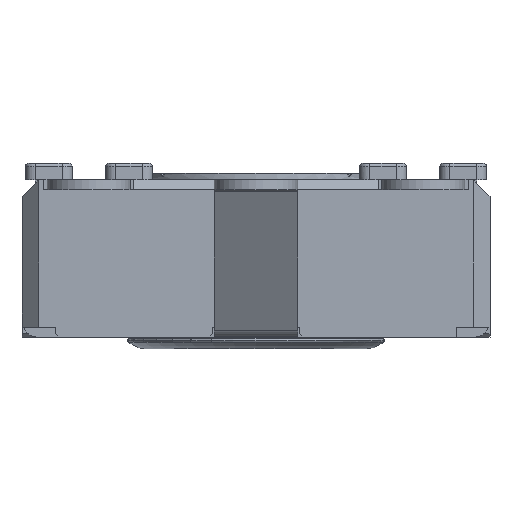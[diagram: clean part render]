
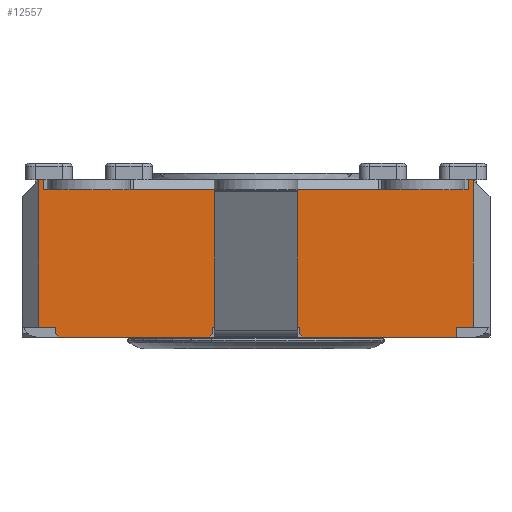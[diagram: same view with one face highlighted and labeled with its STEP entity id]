
A CAD part, front view. The second image highlights one B-rep face of the part: STEP entity #12557.
In plain terms, the highlighted planar face has unit normal (0, -1, 0).
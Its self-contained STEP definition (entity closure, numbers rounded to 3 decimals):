
#389=LINE('',#17617,#1822);
#459=LINE('',#17807,#1892);
#460=LINE('',#17809,#1893);
#461=LINE('',#17812,#1894);
#466=LINE('',#17822,#1899);
#528=LINE('',#17953,#1961);
#535=LINE('',#17970,#1968);
#664=LINE('',#18374,#2097);
#679=LINE('',#18403,#2112);
#747=LINE('',#18555,#2180);
#755=LINE('',#18568,#2188);
#871=LINE('',#18939,#2304);
#1078=LINE('',#19463,#2511);
#1083=LINE('',#19472,#2516);
#1086=LINE('',#19477,#2519);
#1173=LINE('',#19754,#2606);
#1181=LINE('',#19772,#2614);
#1187=LINE('',#19780,#2620);
#1188=LINE('',#19783,#2621);
#1189=LINE('',#19785,#2622);
#1190=LINE('',#19787,#2623);
#1191=LINE('',#19788,#2624);
#1192=LINE('',#19789,#2625);
#1193=LINE('',#19790,#2626);
#1194=LINE('',#19791,#2627);
#1195=LINE('',#19792,#2628);
#1196=LINE('',#19793,#2629);
#1822=VECTOR('',#14098,10.);
#1892=VECTOR('',#14254,10.);
#1893=VECTOR('',#14257,10.);
#1894=VECTOR('',#14260,10.);
#1899=VECTOR('',#14265,10.);
#1961=VECTOR('',#14377,10.);
#1968=VECTOR('',#14390,10.);
#2097=VECTOR('',#14815,10.);
#2112=VECTOR('',#14844,10.);
#2180=VECTOR('',#14994,10.);
#2188=VECTOR('',#15004,10.);
#2304=VECTOR('',#15268,10.);
#2511=VECTOR('',#15617,10.);
#2516=VECTOR('',#15622,10.);
#2519=VECTOR('',#15627,10.);
#2606=VECTOR('',#15852,10.);
#2614=VECTOR('',#15864,10.);
#2620=VECTOR('',#15874,10.);
#2621=VECTOR('',#15877,10.);
#2622=VECTOR('',#15878,10.);
#2623=VECTOR('',#15879,10.);
#2624=VECTOR('',#15880,10.);
#2625=VECTOR('',#15881,10.);
#2626=VECTOR('',#15882,10.);
#2627=VECTOR('',#15883,10.);
#2628=VECTOR('',#15884,10.);
#2629=VECTOR('',#15885,10.);
#3518=FACE_OUTER_BOUND('',#4197,.T.);
#4197=EDGE_LOOP('',(#9796,#9797,#9798,#9799,#9800,#9801,#9802,#9803,#9804,
#9805,#9806,#9807,#9808,#9809,#9810,#9811,#9812,#9813,#9814,#9815,#9816,
#9817,#9818,#9819,#9820,#9821,#9822));
#4883=VERTEX_POINT('',#17494);
#4934=VERTEX_POINT('',#17616);
#4962=VERTEX_POINT('',#17692);
#4985=VERTEX_POINT('',#17742);
#5007=VERTEX_POINT('',#17793);
#5009=VERTEX_POINT('',#17799);
#5012=VERTEX_POINT('',#17811);
#5016=VERTEX_POINT('',#17819);
#5017=VERTEX_POINT('',#17821);
#5061=VERTEX_POINT('',#17951);
#5068=VERTEX_POINT('',#17969);
#5194=VERTEX_POINT('',#18371);
#5195=VERTEX_POINT('',#18373);
#5201=VERTEX_POINT('',#18400);
#5202=VERTEX_POINT('',#18402);
#5245=VERTEX_POINT('',#18554);
#5249=VERTEX_POINT('',#18566);
#5369=VERTEX_POINT('',#18935);
#5520=VERTEX_POINT('',#19462);
#5524=VERTEX_POINT('',#19470);
#5577=VERTEX_POINT('',#19752);
#5578=VERTEX_POINT('',#19753);
#5585=VERTEX_POINT('',#19770);
#5586=VERTEX_POINT('',#19771);
#5587=VERTEX_POINT('',#19782);
#5588=VERTEX_POINT('',#19784);
#5589=VERTEX_POINT('',#19786);
#6139=EDGE_CURVE('',#4934,#4883,#389,.T.);
#6233=EDGE_CURVE('',#5007,#4962,#459,.T.);
#6234=EDGE_CURVE('',#5009,#4985,#460,.T.);
#6235=EDGE_CURVE('',#5012,#4934,#461,.T.);
#6240=EDGE_CURVE('',#5017,#5016,#466,.T.);
#6307=EDGE_CURVE('',#4962,#5061,#528,.T.);
#6315=EDGE_CURVE('',#5068,#5007,#535,.T.);
#6518=EDGE_CURVE('',#5195,#5194,#664,.T.);
#6533=EDGE_CURVE('',#5202,#5201,#679,.T.);
#6610=EDGE_CURVE('',#5245,#5009,#747,.T.);
#6618=EDGE_CURVE('',#4985,#5249,#755,.T.);
#6772=EDGE_CURVE('',#5202,#5369,#871,.T.);
#7000=EDGE_CURVE('',#5520,#5369,#1078,.T.);
#7005=EDGE_CURVE('',#4883,#5524,#1083,.T.);
#7008=EDGE_CURVE('',#5017,#5194,#1086,.T.);
#7114=EDGE_CURVE('',#5577,#5578,#1173,.T.);
#7122=EDGE_CURVE('',#5585,#5586,#1181,.T.);
#7128=EDGE_CURVE('',#5012,#5577,#1187,.T.);
#7129=EDGE_CURVE('',#5524,#5587,#1188,.T.);
#7130=EDGE_CURVE('',#5588,#5587,#1189,.T.);
#7131=EDGE_CURVE('',#5588,#5589,#1190,.T.);
#7132=EDGE_CURVE('',#5589,#5520,#1191,.T.);
#7133=EDGE_CURVE('',#5201,#5245,#1192,.T.);
#7134=EDGE_CURVE('',#5068,#5249,#1193,.T.);
#7135=EDGE_CURVE('',#5061,#5195,#1194,.T.);
#7136=EDGE_CURVE('',#5016,#5586,#1195,.T.);
#7137=EDGE_CURVE('',#5585,#5578,#1196,.T.);
#9796=ORIENTED_EDGE('',*,*,#7114,.F.);
#9797=ORIENTED_EDGE('',*,*,#7128,.F.);
#9798=ORIENTED_EDGE('',*,*,#6235,.T.);
#9799=ORIENTED_EDGE('',*,*,#6139,.T.);
#9800=ORIENTED_EDGE('',*,*,#7005,.T.);
#9801=ORIENTED_EDGE('',*,*,#7129,.T.);
#9802=ORIENTED_EDGE('',*,*,#7130,.F.);
#9803=ORIENTED_EDGE('',*,*,#7131,.T.);
#9804=ORIENTED_EDGE('',*,*,#7132,.T.);
#9805=ORIENTED_EDGE('',*,*,#7000,.T.);
#9806=ORIENTED_EDGE('',*,*,#6772,.F.);
#9807=ORIENTED_EDGE('',*,*,#6533,.T.);
#9808=ORIENTED_EDGE('',*,*,#7133,.T.);
#9809=ORIENTED_EDGE('',*,*,#6610,.T.);
#9810=ORIENTED_EDGE('',*,*,#6234,.T.);
#9811=ORIENTED_EDGE('',*,*,#6618,.T.);
#9812=ORIENTED_EDGE('',*,*,#7134,.F.);
#9813=ORIENTED_EDGE('',*,*,#6315,.T.);
#9814=ORIENTED_EDGE('',*,*,#6233,.T.);
#9815=ORIENTED_EDGE('',*,*,#6307,.T.);
#9816=ORIENTED_EDGE('',*,*,#7135,.T.);
#9817=ORIENTED_EDGE('',*,*,#6518,.T.);
#9818=ORIENTED_EDGE('',*,*,#7008,.F.);
#9819=ORIENTED_EDGE('',*,*,#6240,.T.);
#9820=ORIENTED_EDGE('',*,*,#7136,.T.);
#9821=ORIENTED_EDGE('',*,*,#7122,.F.);
#9822=ORIENTED_EDGE('',*,*,#7137,.T.);
#11771=PLANE('',#13421);
#12557=ADVANCED_FACE('',(#3518),#11771,.T.);
#13421=AXIS2_PLACEMENT_3D('',#19781,#15875,#15876);
#14098=DIRECTION('',(1.,0.,0.));
#14254=DIRECTION('',(-1.,0.,0.));
#14257=DIRECTION('',(-1.,0.,0.));
#14260=DIRECTION('',(1.,0.,0.));
#14265=DIRECTION('',(1.,0.,0.));
#14377=DIRECTION('',(-1.,0.,0.));
#14390=DIRECTION('',(-1.,0.,0.));
#14815=DIRECTION('',(-1.,0.,0.));
#14844=DIRECTION('',(-1.,0.,0.));
#14994=DIRECTION('',(-1.,0.,0.));
#15004=DIRECTION('',(-1.,0.,0.));
#15268=DIRECTION('',(0.,0.,-1.));
#15617=DIRECTION('',(1.,0.,0.));
#15622=DIRECTION('',(1.,0.,0.));
#15627=DIRECTION('',(0.,0.,1.));
#15852=DIRECTION('',(-0.707,0.,-0.707));
#15864=DIRECTION('',(-0.707,0.,0.707));
#15874=DIRECTION('',(0.,0.,-1.));
#15875=DIRECTION('center_axis',(0.,-1.,0.));
#15876=DIRECTION('ref_axis',(0.,0.,-1.));
#15877=DIRECTION('',(0.,0.,-1.));
#15878=DIRECTION('',(-0.707,0.,0.707));
#15879=DIRECTION('',(1.,0.,0.));
#15880=DIRECTION('',(0.,0.,1.));
#15881=DIRECTION('',(0.,0.,-1.));
#15882=DIRECTION('',(1.,0.,0.));
#15883=DIRECTION('',(0.,0.,1.));
#15884=DIRECTION('',(0.,0.,-1.));
#15885=DIRECTION('',(1.,0.,0.));
#17494=CARTESIAN_POINT('',(-6.217,-9.898,0.));
#17616=CARTESIAN_POINT('',(-8.717,-9.898,0.));
#17617=CARTESIAN_POINT('',(-14.467,-9.898,0.));
#17692=CARTESIAN_POINT('',(-13.717,-9.898,4.1));
#17742=CARTESIAN_POINT('',(-3.717,-9.898,4.1));
#17793=CARTESIAN_POINT('',(-11.217,-9.898,4.1));
#17799=CARTESIAN_POINT('',(-1.217,-9.898,4.1));
#17807=CARTESIAN_POINT('',(-3.944,-9.898,4.1));
#17809=CARTESIAN_POINT('',(-1.862,-9.898,4.1));
#17811=CARTESIAN_POINT('',(-8.767,-9.898,0.));
#17812=CARTESIAN_POINT('',(-14.467,-9.898,0.));
#17819=CARTESIAN_POINT('',(-13.467,-9.898,0.));
#17821=CARTESIAN_POINT('',(-13.967,-9.898,0.));
#17822=CARTESIAN_POINT('',(-7.245,-9.898,0.));
#17951=CARTESIAN_POINT('',(-13.817,-9.898,4.1));
#17953=CARTESIAN_POINT('',(-3.944,-9.898,4.1));
#17969=CARTESIAN_POINT('',(-11.117,-9.898,4.1));
#17970=CARTESIAN_POINT('',(-3.944,-9.898,4.1));
#18371=CARTESIAN_POINT('',(-13.967,-9.898,4.4));
#18373=CARTESIAN_POINT('',(-13.817,-9.898,4.4));
#18374=CARTESIAN_POINT('',(-14.467,-9.898,4.4));
#18400=CARTESIAN_POINT('',(-1.117,-9.898,4.4));
#18402=CARTESIAN_POINT('',(-0.967,-9.898,4.4));
#18403=CARTESIAN_POINT('',(-14.467,-9.898,4.4));
#18554=CARTESIAN_POINT('',(-1.117,-9.898,4.1));
#18555=CARTESIAN_POINT('',(-1.862,-9.898,4.1));
#18566=CARTESIAN_POINT('',(-3.817,-9.898,4.1));
#18568=CARTESIAN_POINT('',(-1.862,-9.898,4.1));
#18935=CARTESIAN_POINT('',(-0.967,-9.898,0.));
#18939=CARTESIAN_POINT('',(-0.967,-9.898,0.));
#19462=CARTESIAN_POINT('',(-1.467,-9.898,0.));
#19463=CARTESIAN_POINT('',(-0.646,-9.898,0.));
#19470=CARTESIAN_POINT('',(-6.167,-9.898,0.));
#19472=CARTESIAN_POINT('',(-14.467,-9.898,0.));
#19477=CARTESIAN_POINT('',(-13.967,-9.898,0.));
#19752=CARTESIAN_POINT('',(-8.767,-9.898,-0.2));
#19753=CARTESIAN_POINT('',(-8.867,-9.898,-0.3));
#19754=CARTESIAN_POINT('',(-6.667,-9.898,1.9));
#19770=CARTESIAN_POINT('',(-13.367,-9.898,-0.3));
#19771=CARTESIAN_POINT('',(-13.467,-9.898,-0.2));
#19772=CARTESIAN_POINT('',(-10.242,-9.898,-3.425));
#19780=CARTESIAN_POINT('',(-8.767,-9.898,0.));
#19781=CARTESIAN_POINT('Origin',(-0.467,-9.898,0.));
#19782=CARTESIAN_POINT('',(-6.167,-9.898,-0.2));
#19783=CARTESIAN_POINT('',(-6.167,-9.898,0.));
#19784=CARTESIAN_POINT('',(-6.067,-9.898,-0.3));
#19785=CARTESIAN_POINT('',(-4.767,-9.898,-1.6));
#19786=CARTESIAN_POINT('',(-1.467,-9.898,-0.3));
#19787=CARTESIAN_POINT('',(-0.467,-9.898,-0.3));
#19788=CARTESIAN_POINT('',(-1.467,-9.898,-0.15));
#19789=CARTESIAN_POINT('',(-1.117,-9.898,2.2));
#19790=CARTESIAN_POINT('',(-3.967,-9.898,4.1));
#19791=CARTESIAN_POINT('',(-13.817,-9.898,2.2));
#19792=CARTESIAN_POINT('',(-13.467,-9.898,-0.15));
#19793=CARTESIAN_POINT('',(-0.467,-9.898,-0.3));
